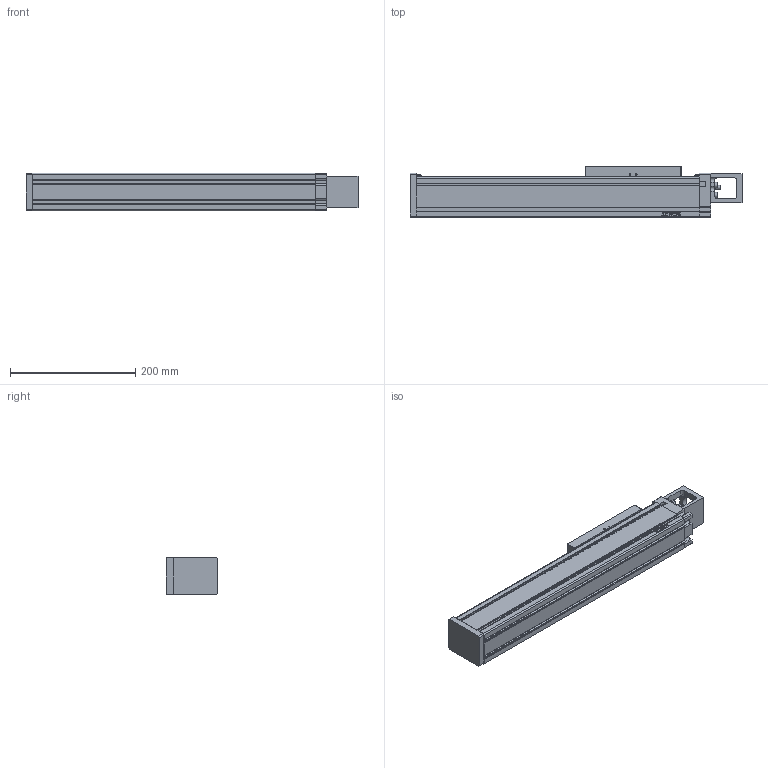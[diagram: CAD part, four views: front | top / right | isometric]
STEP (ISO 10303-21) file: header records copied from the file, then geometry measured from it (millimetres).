
FILE_DESCRIPTION(/* description */ (''),/* implementation_level */ '2;1');
FILE_NAME(/* name */ 'D:\混合母檔20191031\混和母檔\混和母檔\bin\Debug\Download\3D\KU60-5C-250AF0\KU60-5C-250AF0.stp',/* time_stamp */ '2019-11-04T16:30:02+08:00',/* author */ ('user'),/* organization */ (''),/* preprocessor_version */ 'ST-DEVELOPER v16.13',/* originating_system */ 'Autodesk Inventor 2018',/* authorisation */ '');
FILE_SCHEMA (('AUTOMOTIVE_DESIGN { 1 0 10303 214 3 1 1 }'));
Length unit declared in the file: millimetre
Products named in the file (3): KU60-5C-250AF0; KU060-F0-BP; KU60-SL
Assembly tree (2 placements, depth 2):
  KU60-5C-250AF0
    KU060-F0-BP
    KU60-SL
Bounding box: 531 x 82 x 60 mm (x, y, z)
Volume: 1955194.4 mm3; surface area: 214684.6 mm2
Topology: 2 solids, 14 shells, 756 faces, 2087 edges, 1370 vertices
Faces by surface type: plane 448, bspline 140, cylinder 133, cone 23, torus 12
Full cylindrical faces by diameter (mm): 2.459 x8, 3 x4, 3.242 x16, 3.5 x4, 4.5 x4, 5 x4, 5.5 x4, 5.7 x4, 6 x1, 8 x1, 8.5 x4, 30 x1, 35 x1
Entity records: 24568 total; most frequent: CARTESIAN_POINT 6539, ORIENTED_EDGE 3902, DIRECTION 3204, EDGE_CURVE 1951, VERTEX_POINT 1321, LINE 1288, VECTOR 1288, AXIS2_PLACEMENT_3D 958
